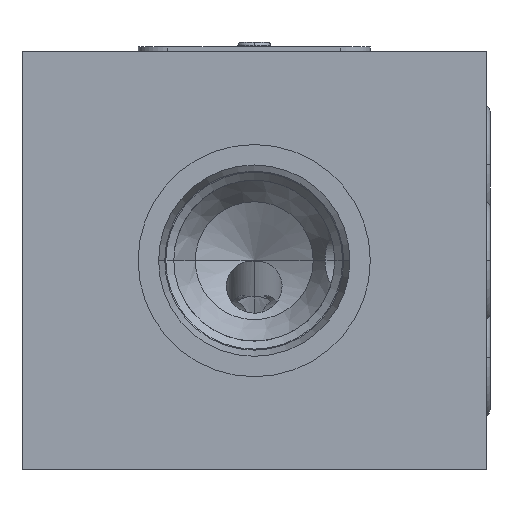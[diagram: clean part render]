
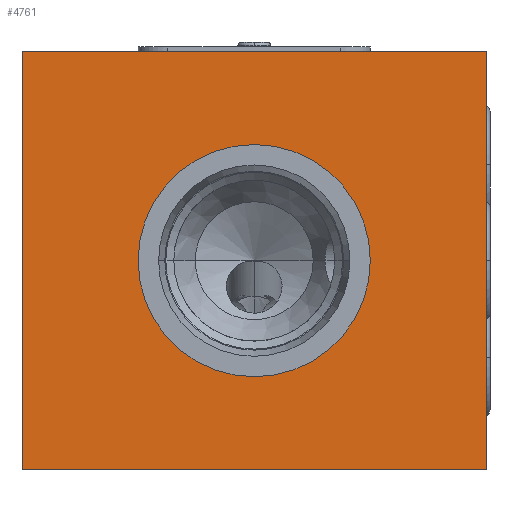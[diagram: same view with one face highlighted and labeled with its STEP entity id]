
A CAD part, left-side view. The second image highlights one B-rep face of the part: STEP entity #4761.
In plain terms, the highlighted planar face has unit normal (-1, 0, 0).
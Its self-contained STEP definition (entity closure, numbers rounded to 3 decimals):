
#55=DIRECTION('',(0.,0.,-1.));
#56=VECTOR('',#55,45.);
#57=CARTESIAN_POINT('',(0.,0.,0.));
#58=LINE('',#57,#56);
#62=DIRECTION('',(0.,1.,0.));
#63=VECTOR('',#62,50.);
#64=CARTESIAN_POINT('',(0.,0.,-45.));
#65=LINE('',#64,#63);
#69=DIRECTION('',(0.,0.,1.));
#70=VECTOR('',#69,45.);
#71=CARTESIAN_POINT('',(0.,50.,-45.));
#72=LINE('',#71,#70);
#76=DIRECTION('',(0.,-1.,0.));
#77=VECTOR('',#76,50.);
#78=CARTESIAN_POINT('',(0.,50.,0.));
#79=LINE('',#78,#77);
#83=CARTESIAN_POINT('',(0.,25.,-22.5));
#84=DIRECTION('',(1.,0.,0.));
#85=DIRECTION('',(0.,-1.,0.));
#86=AXIS2_PLACEMENT_3D('',#83,#84,#85);
#91=CARTESIAN_POINT('',(0.,25.,-22.5));
#92=DIRECTION('',(1.,0.,0.));
#93=DIRECTION('',(0.,1.,0.));
#94=AXIS2_PLACEMENT_3D('',#91,#92,#93);
#4368=CARTESIAN_POINT('',(0.,0.,0.));
#4369=CARTESIAN_POINT('',(0.,0.,-45.));
#4370=VERTEX_POINT('',#4368);
#4371=VERTEX_POINT('',#4369);
#4372=CARTESIAN_POINT('',(0.,50.,-45.));
#4373=VERTEX_POINT('',#4372);
#4374=CARTESIAN_POINT('',(0.,50.,0.));
#4375=VERTEX_POINT('',#4374);
#4486=CARTESIAN_POINT('',(0.,12.5,-22.5));
#4487=VERTEX_POINT('',#4486);
#4488=CARTESIAN_POINT('',(0.,37.5,-22.5));
#4489=VERTEX_POINT('',#4488);
#4740=CARTESIAN_POINT('',(0.,0.,0.));
#4741=DIRECTION('',(1.,0.,0.));
#4742=DIRECTION('',(0.,0.,-1.));
#4743=AXIS2_PLACEMENT_3D('',#4740,#4741,#4742);
#4744=PLANE('',#4743);
#4746=ORIENTED_EDGE('',*,*,#4745,.T.);
#4748=ORIENTED_EDGE('',*,*,#4747,.T.);
#4750=ORIENTED_EDGE('',*,*,#4749,.T.);
#4752=ORIENTED_EDGE('',*,*,#4751,.T.);
#4753=EDGE_LOOP('',(#4746,#4748,#4750,#4752));
#4754=FACE_OUTER_BOUND('',#4753,.F.);
#4756=ORIENTED_EDGE('',*,*,#4755,.F.);
#4758=ORIENTED_EDGE('',*,*,#4757,.F.);
#4759=EDGE_LOOP('',(#4756,#4758));
#4760=FACE_BOUND('',#4759,.F.);
#87=CIRCLE('',#86,12.5);
#95=CIRCLE('',#94,12.5);
#4745=EDGE_CURVE('',#4370,#4371,#58,.T.);
#4747=EDGE_CURVE('',#4371,#4373,#65,.T.);
#4749=EDGE_CURVE('',#4373,#4375,#72,.T.);
#4751=EDGE_CURVE('',#4375,#4370,#79,.T.);
#4755=EDGE_CURVE('',#4487,#4489,#87,.T.);
#4757=EDGE_CURVE('',#4489,#4487,#95,.T.);
#4761=ADVANCED_FACE('',(#4754,#4760),#4744,.F.);
